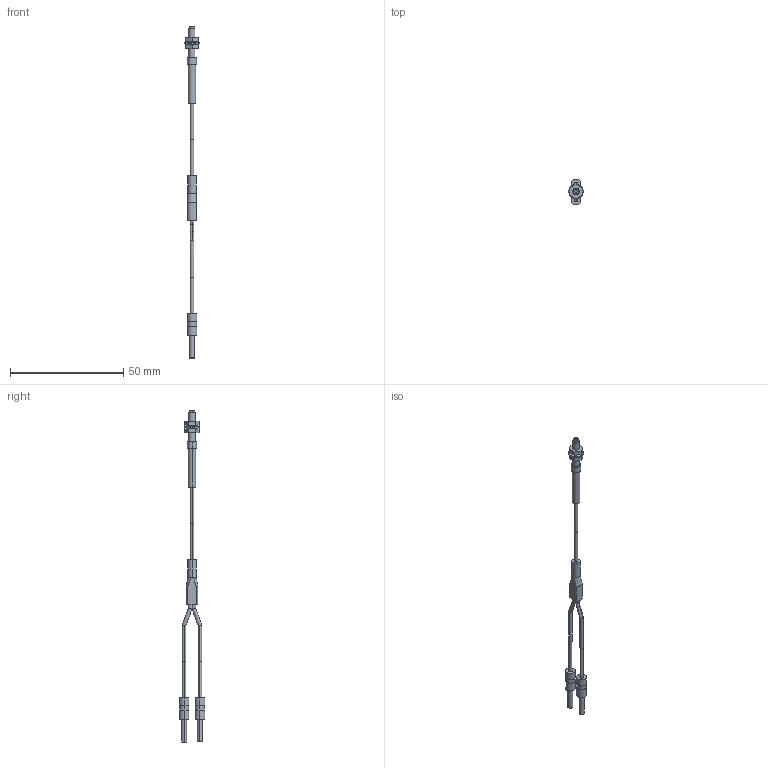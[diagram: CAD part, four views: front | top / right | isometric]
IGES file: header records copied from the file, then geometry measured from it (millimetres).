
Start section: SolidWorks IGES FILE using analytic representation for surfaces
Global section: file name: C:\Documents and Settings\yk0651\デスクトップ\3D_catalog_050904\0_IGES\FD-EG2.IGS; native system: SolidWorks 2004 by SolidWorks Corporation; preprocessor: Version 5.3; author: yk0651; date: 050904.182239; units: millimetre
Bounding box: 6.5 x 11.33 x 146.5 mm (x, y, z)
Volume: 1214.7 mm3; surface area: 1950.4 mm2
Topology: 7 solids, 7 shells, 104 faces, 214 edges, 140 vertices
Faces by surface type: revolution 59, plane 45
